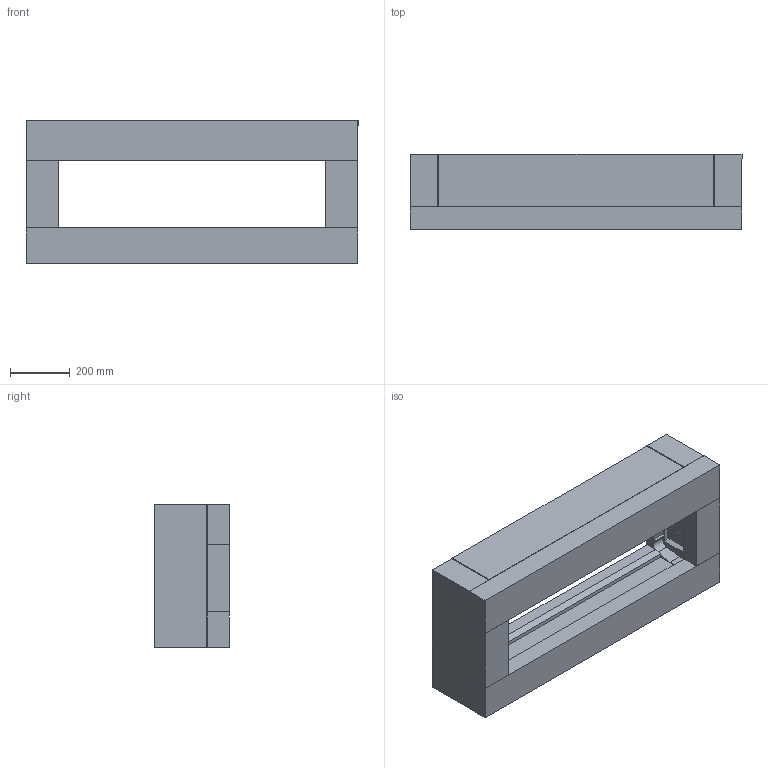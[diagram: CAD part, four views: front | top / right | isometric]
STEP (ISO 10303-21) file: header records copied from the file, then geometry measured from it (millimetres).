
FILE_DESCRIPTION(/* description */ ('D7-330 FOAM ASSEMBLY - COMPLETE'),/* implementation_level */ '2;1');
FILE_NAME(/* name */ 'C:\VaultWorkspace\Designs\58-Meteor-D7\Marketing\D7-330 Console (Marketing)\Transport GA\D73-30-01-7203-Foam-STEP.stp',/* time_stamp */ '2025-11-13T15:18:06+00:00',/* author */ ('nashib.rai'),/* organization */ ('AVOLITES LIMITED'),/* preprocessor_version */ 'ST-DEVELOPER v18.1',/* originating_system */ 'Autodesk Inventor 2022',/* authorisation */ 'JBT');
FILE_SCHEMA (('CONFIG_CONTROL_DESIGN'));
Length unit declared in the file: millimetre
Products named in the file (11): 09-01-7331; N/A; N/A_1; N/A_2; N/A_3; N/A_4; N/A_5; N/A_6; N/A_7; N/A_8; N/A_9
Assembly tree (10 placements, depth 3):
  09-01-7331
    N/A
      N/A_1
      N/A_2
      N/A_3
      N/A_4
    N/A_5
      N/A_6
      N/A_7
      N/A_8
      N/A_9
Bounding box: 1110 x 250.5 x 480 mm (x, y, z)
Volume: 53927105.7 mm3; surface area: 2795802.2 mm2
Topology: 9 solids, 9 shells, 131 faces, 310 edges, 206 vertices
Faces by surface type: plane 117, cylinder 14
Full cylindrical faces by diameter (mm): 20 x6
Entity records: 4160 total; most frequent: CARTESIAN_POINT 669, DIRECTION 644, ORIENTED_EDGE 620, EDGE_CURVE 310, LINE 282, VECTOR 282, VERTEX_POINT 206, AXIS2_PLACEMENT_3D 181
